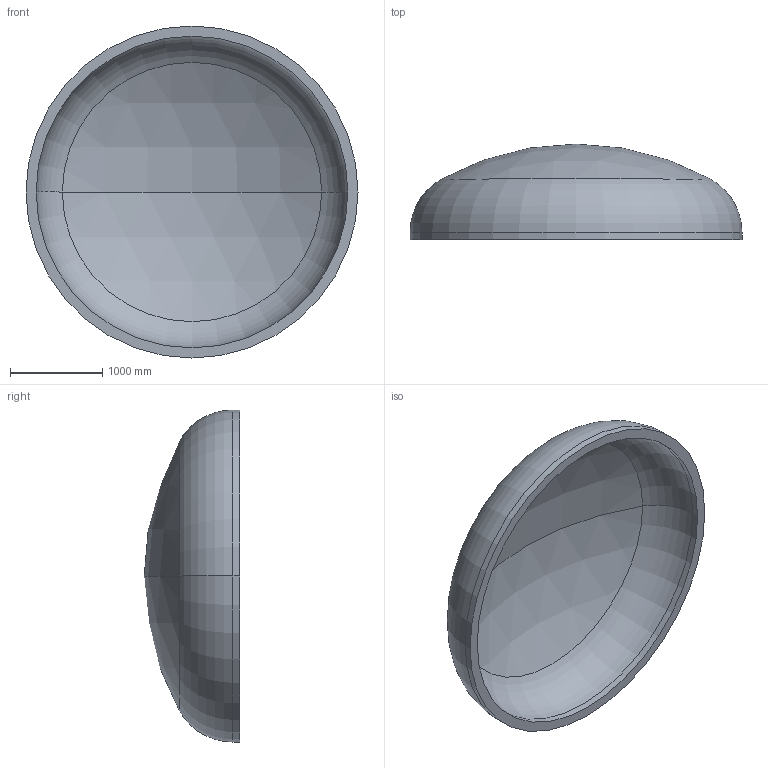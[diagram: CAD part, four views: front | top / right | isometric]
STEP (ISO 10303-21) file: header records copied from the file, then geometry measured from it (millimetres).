
FILE_DESCRIPTION (( 'STEP AP203' ), '1' );
FILE_NAME ('DIN 28013 Korbbogenform_-_Boden DIN 28013 - 3600 x 75 - I - s=110.step', '2016-07-01T20:52:30', ( '' ), ( '' ), 'SwSTEP 2.0', 'SolidWorks 2013', '' );
FILE_SCHEMA (( 'CONFIG_CONTROL_DESIGN' ));
Length unit declared in the file: millimetre
Products named in the file (1): DIN 28013 Korbbogenform_-_Boden DIN 28013 - 3600 x 75 - I - s=110
Bounding box: 3600 x 1035.86 x 3600 mm (x, y, z)
Volume: 1580841001.1 mm3; surface area: 29973953.5 mm2
Topology: 1 solids, 1 shells, 13 faces, 24 edges, 14 vertices
Faces by surface type: torus 4, cylinder 4, sphere 4, plane 1
Entity records: 407 total; most frequent: DIRECTION 72, CARTESIAN_POINT 52, ORIENTED_EDGE 48, AXIS2_PLACEMENT_3D 34, EDGE_CURVE 24, CIRCLE 20, VERTEX_POINT 14, EDGE_LOOP 14
